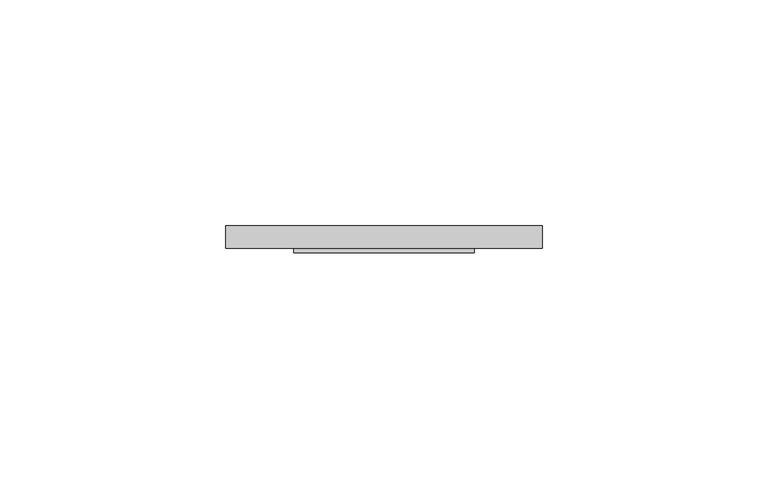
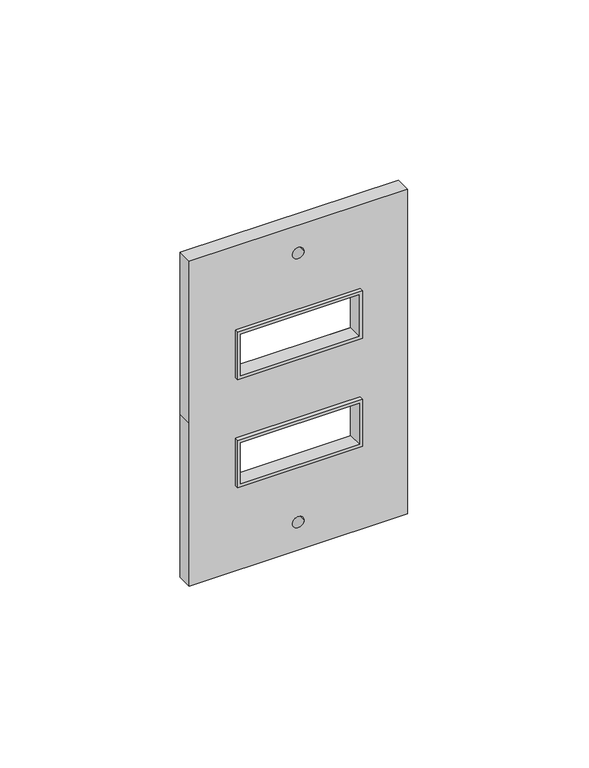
"""IFC4 building model written with IfcOpenShell, lengths in millimetres: light fixture geometry, Apagador doble : Apagador."""

from ifc_helpers import new_model, si_unit, point, frame, frame_2d, origin, place, context, project, spatial, polyline, circle_curve, trimmed, segment, composite_curve, outline, extrude, source, transform, mapped, element, save


def light_fixture_57cf48fd(model_context):
    return source(origin(), model_context, "Body", "SweptSolid", [
        extrude(outline(polyline([(1089.6666667, 145.0), (1089.6666667, 105.0), (1073.6666667, 105.0), (1073.6666667, 145.0), (1089.6666667, 145.0)]), holes=[polyline([(1088.6666667, 144.0359807), (1074.6666667, 144.0359807), (1074.6666667, 105.9197769), (1088.6666667, 105.9197769), (1088.6666667, 144.0359807)])]), frame((0.0, -90.9684395, 0.0), z_axis=(0.0, 1.0, 0.0), x_axis=(0.0, 0.0, 1.0)), (0.0, 0.0, 1.0), 4.7658788),
        extrude(outline(polyline([(1110.3333333, 145.0), (1126.3333333, 145.0), (1126.3333333, 105.0), (1110.3333333, 105.0), (1110.3333333, 145.0)]), holes=[polyline([(1125.3333333, 106.0), (1125.3333333, 144.0), (1111.3333333, 144.0), (1111.3333333, 106.0), (1125.3333333, 106.0)])]), frame((0.0, -90.9684395, 0.0), z_axis=(0.0, 1.0, 0.0), x_axis=(0.0, 0.0, 1.0)), (0.0, 0.0, 1.0), 4.7658788),
        extrude(outline(polyline([(1155.0, 160.0), (1155.0, 90.0), (1100.0, 90.0), (1045.0, 90.0), (1045.0, 160.0), (1155.0, 160.0)]), holes=[composite_curve([segment(trimmed(circle_curve(frame_2d((1145.5814465, 125.0)), 1.8475425), [point((1145.5814465, 123.1524575))], [point((1145.5814465, 126.8475425))], True, "CARTESIAN"), True, "CONTINUOUS"), segment(trimmed(circle_curve(frame_2d((1145.5814465, 125.0)), 1.8475425), [point((1145.5814465, 126.8475425))], [point((1145.5814465, 123.1524575))], True, "CARTESIAN"), True, "CONTINUOUS")], self_intersect=False), composite_curve([segment(trimmed(circle_curve(frame_2d((1054.4185535, 125.0)), 1.8475425), [point((1054.4185535, 123.1524575))], [point((1054.4185535, 126.8475425))], True, "CARTESIAN"), True, "CONTINUOUS"), segment(trimmed(circle_curve(frame_2d((1054.4185535, 125.0)), 1.8475425), [point((1054.4185535, 126.8475425))], [point((1054.4185535, 123.1524575))], True, "CARTESIAN"), True, "CONTINUOUS")], self_intersect=False), polyline([(1089.6666667, 105.0), (1089.6666667, 145.0), (1073.6666667, 145.0), (1073.6666667, 105.0), (1089.6666667, 105.0)]), polyline([(1126.3333333, 105.0), (1126.3333333, 145.0), (1110.3333333, 145.0), (1110.3333333, 105.0), (1126.3333333, 105.0)])]), frame((0.0, -90.0, 0.0), z_axis=(0.0, 1.0, 0.0), x_axis=(0.0, 0.0, 1.0)), (0.0, 0.0, 1.0), 5.0),
    ])


if __name__ == "__main__":
    model = new_model("IFC4")
    model_context = context("Model", 3, world=origin())
    ifc_project = project(units=[si_unit("LENGTHUNIT", "METRE", prefix="MILLI")], contexts=[model_context])
    site = spatial("IfcSite", under=ifc_project)
    building = spatial("IfcBuilding", under=site)
    placement = place(None, origin())
    light_fixture_shape = light_fixture_57cf48fd(model_context)
    element("IfcLightFixture", 1, ObjectType="Apagador doble : Apagador", at=placement, inside=building, context=model_context, shape_type="MappedRepresentation", body=[
        mapped(light_fixture_shape, transform((0.0, 0.0, 0.0), x_axis=(1.0, 0.0, 0.0), y_axis=(0.0, 1.0, 0.0), z_axis=(0.0, 0.0, 1.0))),
    ])
    save(model, "model.ifc")
